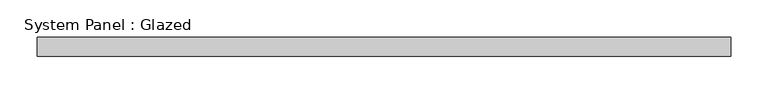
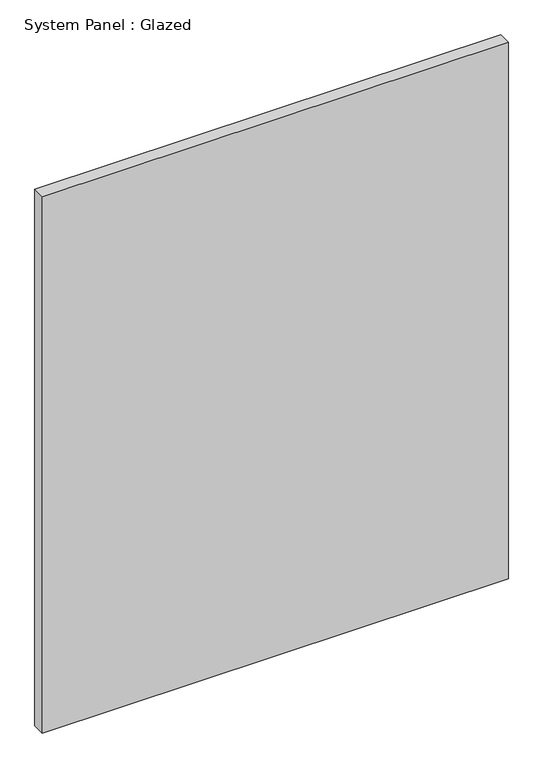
"""IFC4 building model written with IfcOpenShell, lengths in millimetres: plate geometry, System Panel : Glazed."""

from ifc_helpers import new_model, si_unit, origin, origin_with_axes, place, context, project, spatial, polyline, outline, extrude, source, transform, mapped, element, save


def system_panel_glazed_88115445(model_context):
    return source(origin(), model_context, "Body", "SweptSolid", [
        extrude(outline(polyline([(462.5, 24.5), (-462.5, 24.5), (-462.5, 49.5), (462.5, 49.5), (462.5, 24.5)])), origin_with_axes(), (0.0, 0.0, 1.0), 1125.0),
    ])


if __name__ == "__main__":
    model = new_model("IFC4")
    model_context = context("Model", 3, world=origin())
    ifc_project = project(units=[si_unit("LENGTHUNIT", "METRE", prefix="MILLI")], contexts=[model_context])
    site = spatial("IfcSite", under=ifc_project)
    building = spatial("IfcBuilding", under=site)
    placement = place(None, origin())
    system_panel_glazed_shape = system_panel_glazed_88115445(model_context)
    element("IfcPlate", 1, ObjectType="System Panel : Glazed", at=placement, inside=building, context=model_context, shape_type="MappedRepresentation", body=[
        mapped(system_panel_glazed_shape, transform((0.0, 0.0, 0.0), x_axis=(1.0, 0.0, 0.0), y_axis=(0.0, 1.0, 0.0), z_axis=(0.0, 0.0, 1.0))),
    ])
    save(model, "model.ifc")
